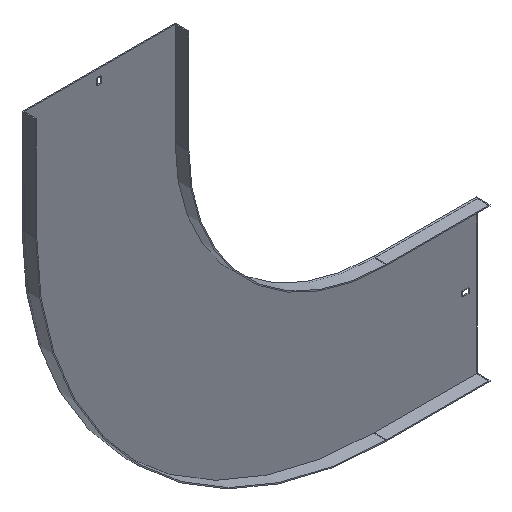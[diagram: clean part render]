
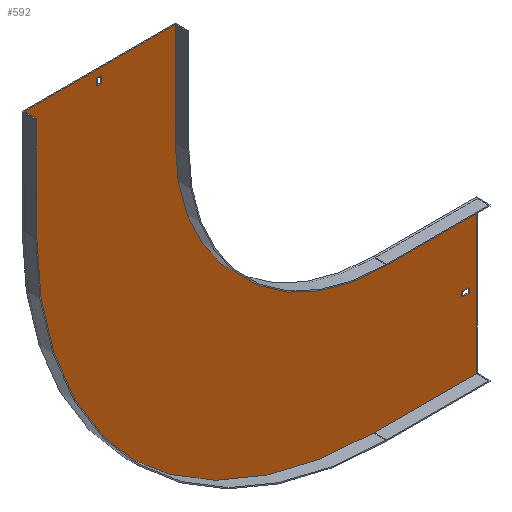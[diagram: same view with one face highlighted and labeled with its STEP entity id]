
A CAD part, isometric view. The second image highlights one B-rep face of the part: STEP entity #592.
In plain terms, the highlighted planar face has unit normal (0, -1, 0).
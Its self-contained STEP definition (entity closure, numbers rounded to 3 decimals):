
#7 = CARTESIAN_POINT ( 'NONE',  ( 150., -1.5, -290. ) ) ;
#12 = EDGE_CURVE ( 'NONE', #389, #727, #799, .T. ) ;
#21 = LINE ( 'NONE', #292, #620 ) ;
#25 = CARTESIAN_POINT ( 'NONE',  ( -290., -1.5, 150. ) ) ;
#28 = ORIENTED_EDGE ( 'NONE', *, *, #152, .F. ) ;
#29 = EDGE_CURVE ( 'NONE', #146, #419, #278, .T. ) ;
#45 = LINE ( 'NONE', #58, #707 ) ;
#46 = ORIENTED_EDGE ( 'NONE', *, *, #62, .F. ) ;
#53 = DIRECTION ( 'NONE',  ( 0., -1., 0. ) ) ;
#58 = CARTESIAN_POINT ( 'NONE',  ( -511.5, -1.5, 150. ) ) ;
#62 = EDGE_CURVE ( 'NONE', #237, #553, #139, .T. ) ;
#64 = DIRECTION ( 'NONE',  ( 0., 0., 1. ) ) ;
#76 = CARTESIAN_POINT ( 'NONE',  ( 138., -1.5, -396.75 ) ) ;
#77 = EDGE_CURVE ( 'NONE', #454, #146, #339, .T. ) ;
#86 = LINE ( 'NONE', #556, #771 ) ;
#88 = EDGE_LOOP ( 'NONE', ( #658, #121, #140, #157 ) ) ;
#93 = VECTOR ( 'NONE', #606, 1000. ) ;
#111 = CARTESIAN_POINT ( 'NONE',  ( 138., -1.5, -403.25 ) ) ;
#116 = PLANE ( 'NONE',  #689 ) ;
#118 = EDGE_CURVE ( 'NONE', #847, #229, #504, .T. ) ;
#121 = ORIENTED_EDGE ( 'NONE', *, *, #375, .T. ) ;
#128 = CARTESIAN_POINT ( 'NONE',  ( 138., -1.5, 0. ) ) ;
#129 = CARTESIAN_POINT ( 'NONE',  ( -403.25, -1.5, 0. ) ) ;
#130 = DIRECTION ( 'NONE',  ( 0., 1., 0. ) ) ;
#131 = VERTEX_POINT ( 'NONE', #616 ) ;
#139 = LINE ( 'NONE', #737, #590 ) ;
#140 = ORIENTED_EDGE ( 'NONE', *, *, #77, .T. ) ;
#146 = VERTEX_POINT ( 'NONE', #698 ) ;
#152 = EDGE_CURVE ( 'NONE', #713, #847, #622, .T. ) ;
#157 = ORIENTED_EDGE ( 'NONE', *, *, #29, .T. ) ;
#171 = DIRECTION ( 'NONE',  ( 0., 0., -1. ) ) ;
#179 = LINE ( 'NONE', #259, #330 ) ;
#192 = CARTESIAN_POINT ( 'NONE',  ( 150., -1.5, -288.5 ) ) ;
#196 = LINE ( 'NONE', #587, #476 ) ;
#204 = DIRECTION ( 'NONE',  ( -1., 0., 0. ) ) ;
#222 = DIRECTION ( 'NONE',  ( 0., 0., 1. ) ) ;
#229 = VERTEX_POINT ( 'NONE', #787 ) ;
#236 = VERTEX_POINT ( 'NONE', #320 ) ;
#237 = VERTEX_POINT ( 'NONE', #382 ) ;
#248 = FACE_OUTER_BOUND ( 'NONE', #646, .T. ) ;
#257 = CARTESIAN_POINT ( 'NONE',  ( -290., -1.5, 0. ) ) ;
#259 = CARTESIAN_POINT ( 'NONE',  ( 0., -1.5, -396.75 ) ) ;
#262 = AXIS2_PLACEMENT_3D ( 'NONE', #472, #130, #404 ) ;
#267 = LINE ( 'NONE', #128, #93 ) ;
#269 = CARTESIAN_POINT ( 'NONE',  ( -396.75, -1.5, 138. ) ) ;
#278 = LINE ( 'NONE', #129, #677 ) ;
#282 = CARTESIAN_POINT ( 'NONE',  ( -403.25, -1.5, 138. ) ) ;
#289 = ORIENTED_EDGE ( 'NONE', *, *, #525, .F. ) ;
#292 = CARTESIAN_POINT ( 'NONE',  ( -510., -1.5, 0. ) ) ;
#301 = CARTESIAN_POINT ( 'NONE',  ( 150., -1.5, -510. ) ) ;
#316 = DIRECTION ( 'NONE',  ( -1., 0., 0. ) ) ;
#320 = CARTESIAN_POINT ( 'NONE',  ( -510., -1.5, 0. ) ) ;
#329 = DIRECTION ( 'NONE',  ( 0., 0., -1. ) ) ;
#330 = VECTOR ( 'NONE', #316, 1000. ) ;
#335 = CARTESIAN_POINT ( 'NONE',  ( 0., -1.5, 129. ) ) ;
#339 = LINE ( 'NONE', #335, #636 ) ;
#342 = EDGE_CURVE ( 'NONE', #553, #444, #267, .T. ) ;
#347 = ORIENTED_EDGE ( 'NONE', *, *, #460, .F. ) ;
#348 = CARTESIAN_POINT ( 'NONE',  ( 129., -1.5, -396.75 ) ) ;
#349 = DIRECTION ( 'NONE',  ( 1., 0., 0. ) ) ;
#352 = DIRECTION ( 'NONE',  ( 0., 0., -1. ) ) ;
#354 = AXIS2_PLACEMENT_3D ( 'NONE', #529, #613, #815 ) ;
#360 = DIRECTION ( 'NONE',  ( 0., 0., -1. ) ) ;
#367 = VERTEX_POINT ( 'NONE', #406 ) ;
#372 = ORIENTED_EDGE ( 'NONE', *, *, #12, .F. ) ;
#375 = EDGE_CURVE ( 'NONE', #642, #454, #738, .T. ) ;
#382 = CARTESIAN_POINT ( 'NONE',  ( 129., -1.5, -403.25 ) ) ;
#387 = CARTESIAN_POINT ( 'NONE',  ( 0., -1.5, 0. ) ) ;
#389 = VERTEX_POINT ( 'NONE', #7 ) ;
#404 = DIRECTION ( 'NONE',  ( 0., 0., -1. ) ) ;
#406 = CARTESIAN_POINT ( 'NONE',  ( -510., -1.5, 150. ) ) ;
#414 = LINE ( 'NONE', #746, #830 ) ;
#419 = VERTEX_POINT ( 'NONE', #282 ) ;
#439 = EDGE_CURVE ( 'NONE', #727, #131, #414, .T. ) ;
#444 = VERTEX_POINT ( 'NONE', #76 ) ;
#445 = EDGE_LOOP ( 'NONE', ( #289, #511, #46, #512 ) ) ;
#451 = ORIENTED_EDGE ( 'NONE', *, *, #118, .F. ) ;
#453 = FACE_BOUND ( 'NONE', #88, .T. ) ;
#454 = VERTEX_POINT ( 'NONE', #604 ) ;
#460 = EDGE_CURVE ( 'NONE', #131, #236, #638, .T. ) ;
#472 = CARTESIAN_POINT ( 'NONE',  ( 0., -1.5, 0. ) ) ;
#476 = VECTOR ( 'NONE', #850, 1000. ) ;
#481 = CARTESIAN_POINT ( 'NONE',  ( -290., -1.5, 150. ) ) ;
#490 = ORIENTED_EDGE ( 'NONE', *, *, #439, .F. ) ;
#494 = DIRECTION ( 'NONE',  ( 1., 0., 0. ) ) ;
#495 = EDGE_CURVE ( 'NONE', #695, #237, #196, .T. ) ;
#504 = CIRCLE ( 'NONE', #354, 290. ) ;
#506 = EDGE_CURVE ( 'NONE', #367, #713, #45, .T. ) ;
#511 = ORIENTED_EDGE ( 'NONE', *, *, #342, .F. ) ;
#512 = ORIENTED_EDGE ( 'NONE', *, *, #495, .F. ) ;
#524 = DIRECTION ( 'NONE',  ( 1., 0., 0. ) ) ;
#525 = EDGE_CURVE ( 'NONE', #444, #695, #179, .T. ) ;
#529 = CARTESIAN_POINT ( 'NONE',  ( 0., -1.5, 0. ) ) ;
#540 = DIRECTION ( 'NONE',  ( -1., 0., 0. ) ) ;
#543 = VECTOR ( 'NONE', #171, 1000. ) ;
#551 = DIRECTION ( 'NONE',  ( 1., 0., 0. ) ) ;
#553 = VERTEX_POINT ( 'NONE', #111 ) ;
#556 = CARTESIAN_POINT ( 'NONE',  ( 0., -1.5, -290. ) ) ;
#587 = CARTESIAN_POINT ( 'NONE',  ( 129., -1.5, 0. ) ) ;
#590 = VECTOR ( 'NONE', #349, 1000. ) ;
#592 = ADVANCED_FACE ( 'NONE', ( #855, #248, #453 ), #116, .T. ) ;
#604 = CARTESIAN_POINT ( 'NONE',  ( -396.75, -1.5, 129. ) ) ;
#606 = DIRECTION ( 'NONE',  ( 0., 0., 1. ) ) ;
#610 = CARTESIAN_POINT ( 'NONE',  ( -396.75, -1.5, 0. ) ) ;
#613 = DIRECTION ( 'NONE',  ( 0., -1., 0. ) ) ;
#616 = CARTESIAN_POINT ( 'NONE',  ( 0., -1.5, -510. ) ) ;
#620 = VECTOR ( 'NONE', #222, 1000. ) ;
#622 = LINE ( 'NONE', #25, #623 ) ;
#623 = VECTOR ( 'NONE', #360, 1000. ) ;
#636 = VECTOR ( 'NONE', #540, 1000. ) ;
#638 = CIRCLE ( 'NONE', #262, 510. ) ;
#640 = CARTESIAN_POINT ( 'NONE',  ( 0., -1.5, 138. ) ) ;
#642 = VERTEX_POINT ( 'NONE', #269 ) ;
#646 = EDGE_LOOP ( 'NONE', ( #696, #766, #347, #490, #372, #831, #451, #28 ) ) ;
#658 = ORIENTED_EDGE ( 'NONE', *, *, #764, .T. ) ;
#665 = VECTOR ( 'NONE', #494, 1000. ) ;
#677 = VECTOR ( 'NONE', #64, 1000. ) ;
#689 = AXIS2_PLACEMENT_3D ( 'NONE', #387, #53, #329 ) ;
#695 = VERTEX_POINT ( 'NONE', #348 ) ;
#696 = ORIENTED_EDGE ( 'NONE', *, *, #506, .F. ) ;
#698 = CARTESIAN_POINT ( 'NONE',  ( -403.25, -1.5, 129. ) ) ;
#707 = VECTOR ( 'NONE', #524, 1000. ) ;
#713 = VERTEX_POINT ( 'NONE', #481 ) ;
#727 = VERTEX_POINT ( 'NONE', #301 ) ;
#737 = CARTESIAN_POINT ( 'NONE',  ( 0., -1.5, -403.25 ) ) ;
#738 = LINE ( 'NONE', #610, #805 ) ;
#746 = CARTESIAN_POINT ( 'NONE',  ( 150., -1.5, -510. ) ) ;
#764 = EDGE_CURVE ( 'NONE', #419, #642, #826, .T. ) ;
#766 = ORIENTED_EDGE ( 'NONE', *, *, #836, .F. ) ;
#771 = VECTOR ( 'NONE', #551, 1000. ) ;
#779 = EDGE_CURVE ( 'NONE', #229, #389, #86, .T. ) ;
#787 = CARTESIAN_POINT ( 'NONE',  ( 0., -1.5, -290. ) ) ;
#799 = LINE ( 'NONE', #192, #543 ) ;
#805 = VECTOR ( 'NONE', #352, 1000. ) ;
#815 = DIRECTION ( 'NONE',  ( 0., 0., -1. ) ) ;
#826 = LINE ( 'NONE', #640, #665 ) ;
#830 = VECTOR ( 'NONE', #204, 1000. ) ;
#831 = ORIENTED_EDGE ( 'NONE', *, *, #779, .F. ) ;
#836 = EDGE_CURVE ( 'NONE', #236, #367, #21, .T. ) ;
#847 = VERTEX_POINT ( 'NONE', #257 ) ;
#850 = DIRECTION ( 'NONE',  ( 0., 0., -1. ) ) ;
#855 = FACE_BOUND ( 'NONE', #445, .T. ) ;
